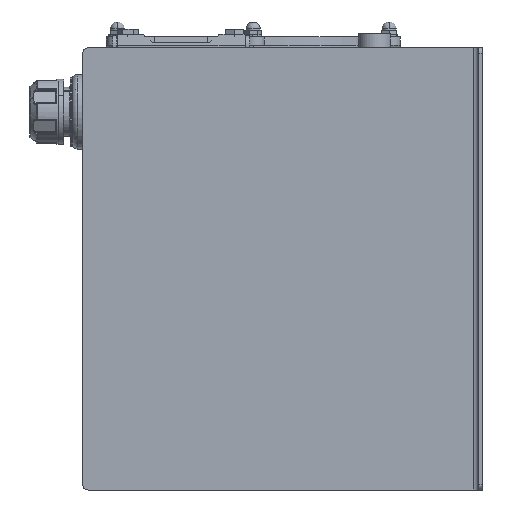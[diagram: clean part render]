
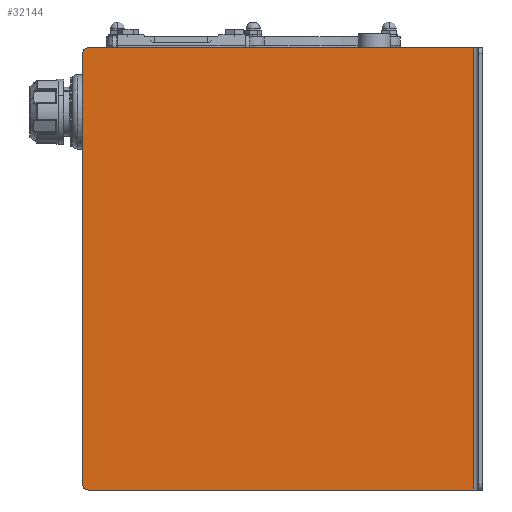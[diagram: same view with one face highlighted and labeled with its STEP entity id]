
A CAD part, left-side view. The second image highlights one B-rep face of the part: STEP entity #32144.
In plain terms, the highlighted planar face has unit normal (-1, 0, 0) as drawn and (0, 0, 1) by its records, which use the part's own axes.
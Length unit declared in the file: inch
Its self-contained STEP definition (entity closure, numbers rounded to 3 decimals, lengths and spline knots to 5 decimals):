
#360 = AXIS2_PLACEMENT_3D ( 'NONE', #1586, #17049, #1815 ) ;
#593 = CARTESIAN_POINT ( 'NONE',  ( 10.125, 9.375, 0. ) ) ;
#704 = AXIS2_PLACEMENT_3D ( 'NONE', #30585, #9511, #14986 ) ;
#856 = EDGE_CURVE ( 'NONE', #13677, #10374, #18939, .T. ) ;
#904 = EDGE_CURVE ( 'NONE', #30297, #27737, #29937, .T. ) ;
#996 = DIRECTION ( 'NONE',  ( 0., -1., 0. ) ) ;
#1167 = ORIENTED_EDGE ( 'NONE', *, *, #856, .T. ) ;
#1586 = CARTESIAN_POINT ( 'NONE',  ( 0., 0., 0. ) ) ;
#1815 = DIRECTION ( 'NONE',  ( -1., 0., 0. ) ) ;
#2836 = ORIENTED_EDGE ( 'NONE', *, *, #19506, .T. ) ;
#2972 = CARTESIAN_POINT ( 'NONE',  ( -10.375, 9.125, 0. ) ) ;
#3982 = AXIS2_PLACEMENT_3D ( 'NONE', #4680, #4465, #7403 ) ;
#4465 = DIRECTION ( 'NONE',  ( 0., 0., 1. ) ) ;
#4680 = CARTESIAN_POINT ( 'NONE',  ( -10.125, 9.125, 0. ) ) ;
#5475 = CARTESIAN_POINT ( 'NONE',  ( -10.375, 9.375, 0. ) ) ;
#6755 = EDGE_CURVE ( 'NONE', #8270, #10374, #17220, .T. ) ;
#7138 = VECTOR ( 'NONE', #996, 39.37008 ) ;
#7403 = DIRECTION ( 'NONE',  ( -1., 0., 0. ) ) ;
#7939 = VECTOR ( 'NONE', #20745, 39.37008 ) ;
#8240 = EDGE_LOOP ( 'NONE', ( #11426, #23133, #24412, #2836, #1167, #22286 ) ) ;
#8270 = VERTEX_POINT ( 'NONE', #21536 ) ;
#9249 = DIRECTION ( 'NONE',  ( -1., 0., 0. ) ) ;
#9273 = VECTOR ( 'NONE', #10517, 39.37008 ) ;
#9511 = DIRECTION ( 'NONE',  ( 0., 0., 1. ) ) ;
#10374 = VERTEX_POINT ( 'NONE', #20137 ) ;
#10517 = DIRECTION ( 'NONE',  ( 0., 1., 0. ) ) ;
#11426 = ORIENTED_EDGE ( 'NONE', *, *, #12592, .T. ) ;
#11913 = CARTESIAN_POINT ( 'NONE',  ( 10.375, -8.9457, 0. ) ) ;
#12592 = EDGE_CURVE ( 'NONE', #8270, #30297, #21467, .T. ) ;
#13677 = VERTEX_POINT ( 'NONE', #2972 ) ;
#14986 = DIRECTION ( 'NONE',  ( -1., 0., 0. ) ) ;
#16793 = CARTESIAN_POINT ( 'NONE',  ( -10.375, -9.375, 0. ) ) ;
#17049 = DIRECTION ( 'NONE',  ( 0., 0., -1. ) ) ;
#17220 = LINE ( 'NONE', #11913, #28638 ) ;
#18939 = LINE ( 'NONE', #16793, #7138 ) ;
#19506 = EDGE_CURVE ( 'NONE', #29257, #13677, #25883, .T. ) ;
#19917 = PLANE ( 'NONE',  #360 ) ;
#20137 = CARTESIAN_POINT ( 'NONE',  ( -10.375, -8.9457, 0. ) ) ;
#20745 = DIRECTION ( 'NONE',  ( -1., 0., 0. ) ) ;
#20882 = CARTESIAN_POINT ( 'NONE',  ( -10.125, 9.375, 0. ) ) ;
#21025 = CARTESIAN_POINT ( 'NONE',  ( 10.375, 9.125, 0. ) ) ;
#21467 = LINE ( 'NONE', #26116, #9273 ) ;
#21536 = CARTESIAN_POINT ( 'NONE',  ( 10.375, -8.9457, 0. ) ) ;
#22286 = ORIENTED_EDGE ( 'NONE', *, *, #6755, .F. ) ;
#23133 = ORIENTED_EDGE ( 'NONE', *, *, #904, .T. ) ;
#23449 = LINE ( 'NONE', #5475, #7939 ) ;
#23849 = FACE_OUTER_BOUND ( 'NONE', #8240, .T. ) ;
#24412 = ORIENTED_EDGE ( 'NONE', *, *, #31767, .T. ) ;
#25883 = CIRCLE ( 'NONE', #3982, 0.25 ) ;
#26116 = CARTESIAN_POINT ( 'NONE',  ( 10.375, -9.375, 0. ) ) ;
#27737 = VERTEX_POINT ( 'NONE', #593 ) ;
#28638 = VECTOR ( 'NONE', #9249, 39.37008 ) ;
#29257 = VERTEX_POINT ( 'NONE', #20882 ) ;
#29937 = CIRCLE ( 'NONE', #704, 0.25 ) ;
#30297 = VERTEX_POINT ( 'NONE', #21025 ) ;
#30585 = CARTESIAN_POINT ( 'NONE',  ( 10.125, 9.125, 0. ) ) ;
#31767 = EDGE_CURVE ( 'NONE', #27737, #29257, #23449, .T. ) ;
#32144 = ADVANCED_FACE ( 'NONE', ( #23849 ), #19917, .F. ) ;
